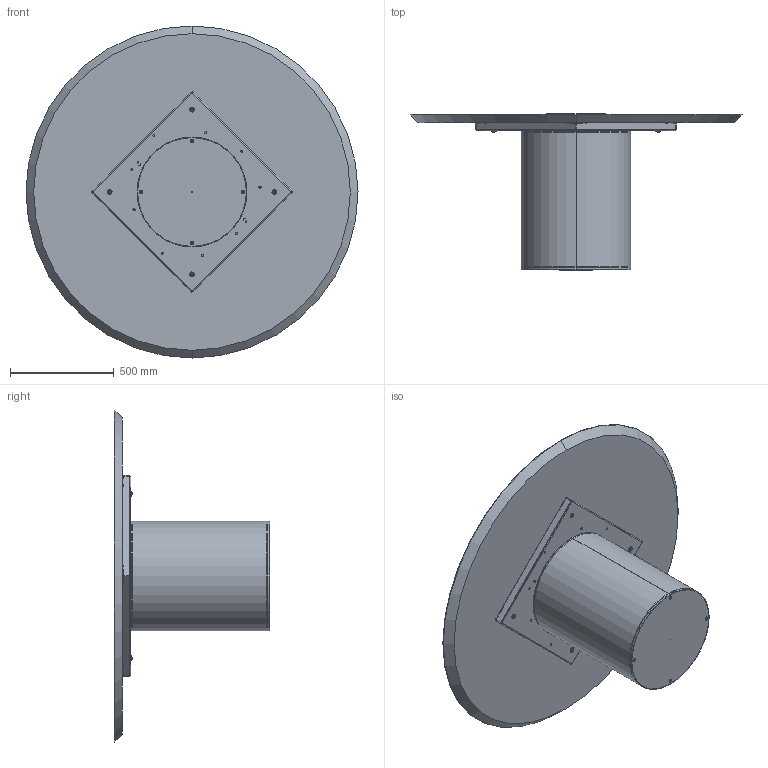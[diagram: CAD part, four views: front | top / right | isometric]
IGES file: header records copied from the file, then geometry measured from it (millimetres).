
Start section: SolidWorks IGES file using analytic representation for surfaces
Global section: file name: Y:\eforma\TECNICO\SOLIDWORKS\E-FORMA\1-TAVOLI\CILINDRO\02 parts\CI08W.IGS; native system: SolidWorks 2022; preprocessor: SolidWorks 2022; author: eforma.tech; date: 240808.090327; units: millimetre
Bounding box: 1600 x 750 x 1600 mm (x, y, z)
Volume: 84337941.3 mm3; surface area: 8257280.7 mm2
Topology: 23 solids, 23 shells, 862 faces, 2146 edges, 1304 vertices
Faces by surface type: revolution 482, plane 380
